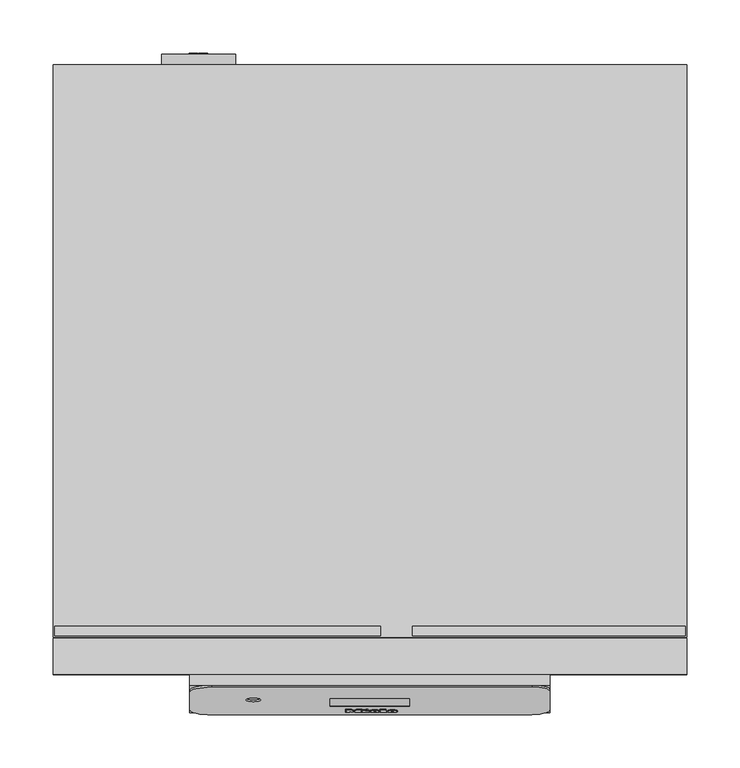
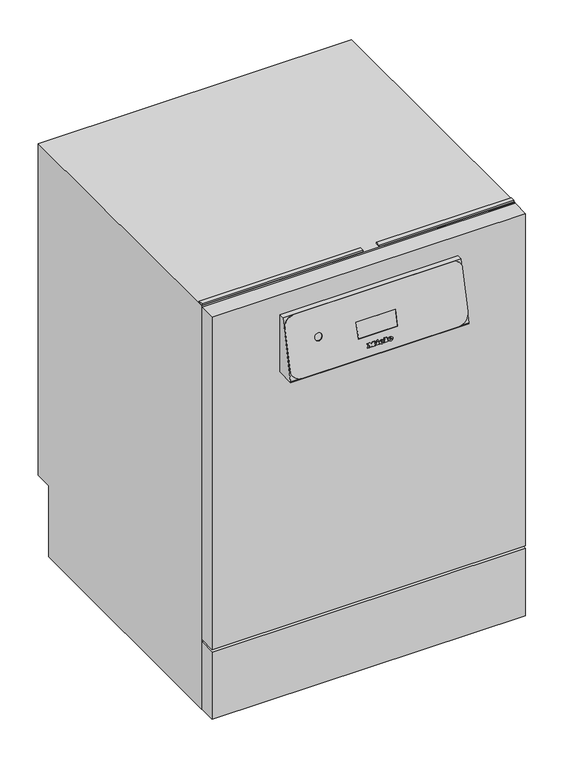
"""IFC4 building model written with IfcOpenShell, lengths in millimetres: proxy geometry, 12065670_NWE_PFD401UDOS_LW : 61040180_NWE_12065670_PFD401UDOS_LW."""

from ifc_helpers import new_model, si_unit, point, frame, frame_2d, origin, origin_with_axes, place, context, project, spatial, polyline, circle_curve, ellipse_curve, trimmed, segment, composite_curve, outline, extrude, source, transform, mapped, element, save
from ifc_brep_helpers import plane_surface, cylinder_surface, revolved_surface, extruded_surface, advanced_brep


def specialty_equipment_0366cfd7(model_context):
    return source(origin(), model_context, "Body", "SolidModel", [
        advanced_brep(
        [(20.656, -35.3033059, 679.7712566), (20.656, -35.1215455, 680.5585476), (26.008, -35.1215455, 680.5585476), (16.696, -35.1215455, 680.5585476), (18.896, -35.7298131, 677.9238509), (25.872, -35.3033059, 679.7712566), (23.456, -35.3033059, 679.7712566), (21.552, -35.5048621, 678.898221), (20.656, -34.8911956, 681.5563025), (20.656, -34.6950383, 682.4059532), (22.024, -34.6950383, 682.4059532), (22.024, -34.8911956, 681.5563025), (20.656, -34.3289359, 679.5463055), (21.552, -34.530492, 678.6732699), (23.456, -34.3289359, 679.5463055), (25.872, -34.3289359, 679.5463055), (18.896, -34.7554431, 677.6988999), (16.696, -34.1471754, 680.3335965), (26.008, -34.1471754, 680.3335965), (20.656, -34.1471754, 680.3335965), (20.656, -33.9168255, 681.3313515), (22.024, -33.9168255, 681.3313515), (22.024, -33.7206682, 682.1810022), (20.656, -33.7206682, 682.1810022)],
        [
            (0, 1),
            (1, 2),
            (2, 3, ellipse_curve(frame((21.352, -35.1215455, 680.5585476), z_axis=(0.0, -0.9743700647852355, 0.22495105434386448), x_axis=(-1.0, 0.0, 0.0)), 4.656, 3.848)),
            (3, 4, circle_curve(frame((19.7920436, -35.0603588, 680.8235762), z_axis=(0.0, -0.9743700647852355, 0.22495105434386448), x_axis=(0.0, -0.22495105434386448, -0.9743700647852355)), 3.1079688)),
            (4, 5, circle_curve(frame((21.2587936, -34.5852622, 682.8814458), z_axis=(0.0, -0.9743700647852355, 0.22495105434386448), x_axis=(0.0, -0.22495105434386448, -0.9743700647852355)), 5.6098607)),
            (5, 6),
            (6, 7, circle_curve(frame((21.9430588, -35.1359424, 680.4961879), z_axis=(0.0, 0.9743700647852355, -0.22495105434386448), x_axis=(0.0, -0.22495105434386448, -0.9743700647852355)), 1.6859795)),
            (7, 0, circle_curve(frame((21.552, -35.3033059, 679.7712566), z_axis=(0.0, 0.9743700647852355, -0.22495105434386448), x_axis=(0.0, -0.22495105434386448, -0.9743700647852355)), 0.896)),
            (8, 9),
            (9, 10, circle_curve(frame((21.34, -34.6950383, 682.4059532), z_axis=(0.0, 0.9743700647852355, -0.22495105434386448), x_axis=(0.0, -0.22495105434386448, -0.9743700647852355)), 0.684)),
            (10, 11),
            (11, 8),
            (12, 13, circle_curve(frame((21.552, -34.3289359, 679.5463055), z_axis=(0.0, -0.9743700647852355, 0.22495105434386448), x_axis=(0.0, -0.22495105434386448, -0.9743700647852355)), 0.896)),
            (13, 14, circle_curve(frame((21.9430588, -34.1615723, 680.2712369), z_axis=(0.0, -0.9743700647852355, 0.22495105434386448), x_axis=(0.0, -0.22495105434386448, -0.9743700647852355)), 1.6859795)),
            (14, 15),
            (15, 16, circle_curve(frame((21.2587936, -33.6108921, 682.6564948), z_axis=(0.0, 0.9743700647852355, -0.22495105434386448), x_axis=(0.0, -0.22495105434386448, -0.9743700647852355)), 5.6098607)),
            (16, 17, circle_curve(frame((19.7920436, -34.0859887, 680.5986252), z_axis=(0.0, 0.9743700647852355, -0.22495105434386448), x_axis=(0.0, -0.22495105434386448, -0.9743700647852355)), 3.1079688)),
            (17, 18, ellipse_curve(frame((21.352, -34.1471754, 680.3335965), z_axis=(0.0, 0.9743700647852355, -0.22495105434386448), x_axis=(-1.0, 0.0, 0.0)), 4.656, 3.848)),
            (18, 19),
            (19, 12),
            (20, 21),
            (21, 22),
            (22, 23, circle_curve(frame((21.34, -33.7206682, 682.1810022), z_axis=(0.0, -0.9743700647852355, 0.22495105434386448), x_axis=(0.0, -0.22495105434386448, -0.9743700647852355)), 0.684)),
            (23, 20),
            (0, 12),
            (19, 1),
            (18, 2),
            (5, 15),
            (14, 6),
            (17, 3),
            (13, 7),
            (16, 4),
            (8, 20),
            (23, 9),
            (22, 10),
            (21, 11),
        ],
        [
            plane_surface(frame((20.656, -35.1215455, 680.5585476), z_axis=(0.0, -0.9743700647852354, 0.22495105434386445), x_axis=(0.0, 0.22495105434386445, 0.9743700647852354))),
            plane_surface(frame((20.656, -34.1471754, 680.3335965), z_axis=(0.0, 0.9743700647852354, -0.22495105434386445), x_axis=(0.0, -0.22495105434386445, -0.9743700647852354))),
            plane_surface(frame((20.656, -35.3033059, 679.7712566), z_axis=(1.0, 0.0, 0.0), x_axis=(0.0, 0.9743700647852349, -0.22495105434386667))),
            plane_surface(frame((20.656, -35.1215455, 680.5585476), z_axis=(0.0, -0.22495105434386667, -0.9743700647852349), x_axis=(0.0, 0.9743700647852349, -0.22495105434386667))),
            plane_surface(frame((25.872, -35.3033059, 679.7712566), z_axis=(0.0, 0.22495105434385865, 0.9743700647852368), x_axis=(0.0, 0.9743700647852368, -0.22495105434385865))),
            extruded_surface(trimmed(ellipse_curve(frame((21.352, -33.1728054, 680.1086455), z_axis=(0.0, -0.9743700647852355, 0.22495105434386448), x_axis=(-1.0, 0.0, 0.0)), 4.656, 3.848), [point((26.008, -33.1728054, 680.1086455))], [point((16.696, -33.1728054, 680.1086455))], True, "CARTESIAN"), (0.0, -0.9743700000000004, 0.22495100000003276), 0.9999999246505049),
            revolved_surface(polyline([(21.9430588, -34.54083511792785, 678.6284689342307), (21.9430588, -35.51520525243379, 678.8534200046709)]), (21.9430588, -34.1615723, 680.2712369), (0.0, 0.9743700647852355, -0.22495105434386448)),
            revolved_surface(polyline([(21.552, -34.53049199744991, 678.6732699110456), (21.552, -35.504862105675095, 678.8982209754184)]), (21.552, -34.3289359, 679.5463055), (0.0, 0.9743700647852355, -0.22495105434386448)),
            cylinder_surface(frame((19.7920436, -34.0859887, 680.5986252), z_axis=(0.0, -0.9743700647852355, 0.22495105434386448), x_axis=(0.0, -0.22495105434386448, -0.9743700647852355)), 3.1079688),
            cylinder_surface(frame((21.2587936, -33.6108921, 682.6564948), z_axis=(0.0, -0.9743700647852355, 0.22495105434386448), x_axis=(0.0, -0.22495105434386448, -0.9743700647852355)), 5.6098607),
            plane_surface(frame((20.656, -34.8911956, 681.5563025), z_axis=(1.0, 0.0, 0.0), x_axis=(0.0, 0.9743700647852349, -0.22495105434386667))),
            revolved_surface(polyline([(21.34, -33.8745347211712, 681.5145330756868), (21.34, -34.84890480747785, 681.7394841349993)]), (21.34, -33.7206682, 682.1810022), (0.0, 0.9743700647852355, -0.22495105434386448)),
            plane_surface(frame((22.024, -34.6950383, 682.4059532), z_axis=(-1.0, 0.0, 0.0), x_axis=(0.0, 0.9743700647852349, -0.22495105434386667))),
            plane_surface(frame((22.024, -34.8911956, 681.5563025), z_axis=(0.0, 0.22495105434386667, 0.9743700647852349), x_axis=(0.0, 0.9743700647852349, -0.22495105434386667))),
        ],
        [
            (0, [[1, 2, 3, 4, 5, 6, 7, 8], [9, 10, 11, 12]]),
            (1, [[13, 14, 15, 16, 17, 18, 19, 20], [21, 22, 23, 24]]),
            (2, [[-1, 25, -20, 26]]),
            (3, [[-2, -26, -19, 27]]),
            (4, [[-6, 28, -15, 29]]),
            (5, [[-3, -27, -18, 30]]),
            (6, [[-7, -29, -14, 31]]),
            (7, [[-8, -31, -13, -25]]),
            (8, [[-4, -30, -17, 32]]),
            (9, [[-5, -32, -16, -28]]),
            (10, [[-9, 33, -24, 34]]),
            (11, [[-10, -34, -23, 35]]),
            (12, [[-11, -35, -22, 36]]),
            (13, [[-12, -36, -21, -33]]),
        ],
    ),
        advanced_brep(
        [(3.96, -35.3033059, 679.7712566), (3.96, -35.1215455, 680.5585476), (9.312, -35.1215455, 680.5585476), (0.0, -35.1215455, 680.5585476), (2.2, -35.7298131, 677.9238509), (9.176, -35.3033059, 679.7712566), (6.76, -35.3033059, 679.7712566), (4.856, -35.5048621, 678.898221), (3.96, -34.8911956, 681.5563025), (3.96, -34.6950383, 682.4059532), (5.328, -34.6950383, 682.4059532), (5.328, -34.8911956, 681.5563025), (3.96, -34.3289359, 679.5463055), (4.856, -34.530492, 678.6732699), (6.76, -34.3289359, 679.5463055), (9.176, -34.3289359, 679.5463055), (2.2, -34.7554431, 677.6988999), (0.0, -34.1471754, 680.3335965), (9.312, -34.1471754, 680.3335965), (3.96, -34.1471754, 680.3335965), (3.96, -33.9168255, 681.3313515), (5.328, -33.9168255, 681.3313515), (5.328, -33.7206682, 682.1810022), (3.96, -33.7206682, 682.1810022)],
        [
            (0, 1),
            (1, 2),
            (2, 3, ellipse_curve(frame((4.656, -35.1215455, 680.5585476), z_axis=(0.0, -0.9743700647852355, 0.22495105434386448), x_axis=(-1.0, 0.0, 0.0)), 4.656, 3.848)),
            (3, 4, circle_curve(frame((3.0960436, -35.0603588, 680.8235762), z_axis=(0.0, -0.9743700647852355, 0.22495105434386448), x_axis=(0.0, -0.22495105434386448, -0.9743700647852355)), 3.1079688)),
            (4, 5, circle_curve(frame((4.5627936, -34.5852622, 682.8814458), z_axis=(0.0, -0.9743700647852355, 0.22495105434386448), x_axis=(0.0, -0.22495105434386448, -0.9743700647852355)), 5.6098607)),
            (5, 6),
            (6, 7, circle_curve(frame((5.2470588, -35.1359424, 680.4961879), z_axis=(0.0, 0.9743700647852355, -0.22495105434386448), x_axis=(0.0, -0.22495105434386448, -0.9743700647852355)), 1.6859795)),
            (7, 0, circle_curve(frame((4.856, -35.3033059, 679.7712566), z_axis=(0.0, 0.9743700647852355, -0.22495105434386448), x_axis=(0.0, -0.22495105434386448, -0.9743700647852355)), 0.896)),
            (8, 9),
            (9, 10, circle_curve(frame((4.644, -34.6950383, 682.4059532), z_axis=(0.0, 0.9743700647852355, -0.22495105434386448), x_axis=(0.0, -0.22495105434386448, -0.9743700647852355)), 0.684)),
            (10, 11),
            (11, 8),
            (12, 13, circle_curve(frame((4.856, -34.3289359, 679.5463055), z_axis=(0.0, -0.9743700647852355, 0.22495105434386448), x_axis=(0.0, -0.22495105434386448, -0.9743700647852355)), 0.896)),
            (13, 14, circle_curve(frame((5.2470588, -34.1615723, 680.2712369), z_axis=(0.0, -0.9743700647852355, 0.22495105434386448), x_axis=(0.0, -0.22495105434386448, -0.9743700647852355)), 1.6859795)),
            (14, 15),
            (15, 16, circle_curve(frame((4.5627936, -33.6108921, 682.6564948), z_axis=(0.0, 0.9743700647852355, -0.22495105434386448), x_axis=(0.0, -0.22495105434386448, -0.9743700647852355)), 5.6098607)),
            (16, 17, circle_curve(frame((3.0960436, -34.0859887, 680.5986252), z_axis=(0.0, 0.9743700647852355, -0.22495105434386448), x_axis=(0.0, -0.22495105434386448, -0.9743700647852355)), 3.1079688)),
            (17, 18, ellipse_curve(frame((4.656, -34.1471754, 680.3335965), z_axis=(0.0, 0.9743700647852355, -0.22495105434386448), x_axis=(-1.0, 0.0, 0.0)), 4.656, 3.848)),
            (18, 19),
            (19, 12),
            (20, 21),
            (21, 22),
            (22, 23, circle_curve(frame((4.644, -33.7206682, 682.1810022), z_axis=(0.0, -0.9743700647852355, 0.22495105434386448), x_axis=(0.0, -0.22495105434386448, -0.9743700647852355)), 0.684)),
            (23, 20),
            (0, 12),
            (19, 1),
            (18, 2),
            (5, 15),
            (14, 6),
            (17, 3),
            (13, 7),
            (16, 4),
            (8, 20),
            (23, 9),
            (22, 10),
            (21, 11),
        ],
        [
            plane_surface(frame((3.96, -35.1215455, 680.5585476), z_axis=(0.0, -0.9743700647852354, 0.22495105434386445), x_axis=(0.0, 0.22495105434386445, 0.9743700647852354))),
            plane_surface(frame((3.96, -34.1471754, 680.3335965), z_axis=(0.0, 0.9743700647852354, -0.22495105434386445), x_axis=(0.0, -0.22495105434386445, -0.9743700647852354))),
            plane_surface(frame((3.96, -35.3033059, 679.7712566), z_axis=(1.0000000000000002, 0.0, 0.0), x_axis=(0.0, 0.9743700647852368, -0.22495105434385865))),
            plane_surface(frame((3.96, -35.1215455, 680.5585476), z_axis=(0.0, -0.22495105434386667, -0.9743700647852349), x_axis=(0.0, 0.9743700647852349, -0.22495105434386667))),
            plane_surface(frame((9.176, -35.3033059, 679.7712566), z_axis=(0.0, 0.22495105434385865, 0.9743700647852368), x_axis=(0.0, 0.9743700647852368, -0.22495105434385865))),
            extruded_surface(trimmed(ellipse_curve(frame((4.656, -33.1728054, 680.1086455), z_axis=(0.0, -0.9743700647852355, 0.22495105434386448), x_axis=(-1.0, 0.0, 0.0)), 4.656, 3.848), [point((9.312, -33.1728054, 680.1086455))], [point((0.0, -33.1728054, 680.1086455))], True, "CARTESIAN"), (0.0, -0.9743700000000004, 0.22495100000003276), 0.9999999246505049),
            revolved_surface(polyline([(5.2470588, -34.54083511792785, 678.6284689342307), (5.2470588, -35.51520525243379, 678.8534200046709)]), (5.2470588, -34.1615723, 680.2712369), (0.0, 0.9743700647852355, -0.22495105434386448)),
            revolved_surface(polyline([(4.856, -34.53049199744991, 678.6732699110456), (4.856, -35.504862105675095, 678.8982209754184)]), (4.856, -34.3289359, 679.5463055), (0.0, 0.9743700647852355, -0.22495105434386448)),
            cylinder_surface(frame((3.0960436, -34.0859887, 680.5986252), z_axis=(0.0, -0.9743700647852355, 0.22495105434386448), x_axis=(0.0, -0.22495105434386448, -0.9743700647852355)), 3.1079688),
            cylinder_surface(frame((4.5627936, -33.6108921, 682.6564948), z_axis=(0.0, -0.9743700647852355, 0.22495105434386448), x_axis=(0.0, -0.22495105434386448, -0.9743700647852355)), 5.6098607),
            plane_surface(frame((3.96, -34.8911956, 681.5563025), z_axis=(1.0, 0.0, 0.0), x_axis=(0.0, 0.9743700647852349, -0.22495105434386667))),
            revolved_surface(polyline([(4.644, -33.8745347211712, 681.5145330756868), (4.644, -34.84890480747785, 681.7394841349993)]), (4.644, -33.7206682, 682.1810022), (0.0, 0.9743700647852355, -0.22495105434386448)),
            plane_surface(frame((5.328, -34.6950383, 682.4059532), z_axis=(-1.0, 0.0, 0.0), x_axis=(0.0, 0.9743700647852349, -0.22495105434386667))),
            plane_surface(frame((5.328, -34.8911956, 681.5563025), z_axis=(0.0, 0.22495105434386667, 0.9743700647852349), x_axis=(0.0, 0.9743700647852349, -0.22495105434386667))),
        ],
        [
            (0, [[1, 2, 3, 4, 5, 6, 7, 8], [9, 10, 11, 12]]),
            (1, [[13, 14, 15, 16, 17, 18, 19, 20], [21, 22, 23, 24]]),
            (2, [[-1, 25, -20, 26]]),
            (3, [[-2, -26, -19, 27]]),
            (4, [[-6, 28, -15, 29]]),
            (5, [[-3, -27, -18, 30]]),
            (6, [[-7, -29, -14, 31]]),
            (7, [[-8, -31, -13, -25]]),
            (8, [[-4, -30, -17, 32]]),
            (9, [[-5, -32, -16, -28]]),
            (10, [[-9, 33, -24, 34]]),
            (11, [[-10, -34, -23, 35]]),
            (12, [[-11, -35, -22, 36]]),
            (13, [[-12, -36, -21, -33]]),
        ],
    ),
        extrude(outline(polyline([(0.0, 0.0), (-0.0109086, -2.9993294), (-1.4390415, -2.9920868), (-1.4315307, 0.0), (0.0, 0.0)])), frame((-4.784, -33.0620115, 685.0339577), z_axis=(0.0, -0.9743700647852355, 0.22495105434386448), x_axis=(-0.4247202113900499, 0.20365373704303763, 0.8821212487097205)), (0.0, 0.0, 1.0), 1.0),
        extrude(outline(polyline([(-0.4933907, 2.4141097), (-2.7800844, -2.4601583), (-7.0459742, -0.4588766), (-7.4401146, -1.2990179), (-8.6568709, -0.728194), (-5.9760369, 4.9862153), (-4.7592806, 4.4153913), (-5.1636142, 3.5535223), (-2.1941493, 2.1604399), (-1.7898156, 3.022309), (-0.4933907, 2.4141097)])), frame((-4.784, -33.0620115, 685.0339577), z_axis=(0.0, -0.9743700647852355, 0.22495105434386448), x_axis=(-0.4247202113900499, 0.20365373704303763, 0.8821212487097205)), (0.0, 0.0, 1.0), 1.0),
        extrude(outline(polyline([(0.0, 0.0), (0.0, -1.304), (-5.504, -1.304), (-5.504, 5.352), (-6.488, 5.352), (-6.488, 6.696), (0.0, 6.696), (0.0, 5.352), (-0.96, 5.352), (-0.96, 0.0), (0.0, 0.0)])), frame((9.76, -33.2491708, 684.2232818), z_axis=(0.0, -0.9743700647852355, 0.22495105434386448), x_axis=(-1.0, 0.0, 0.0)), (0.0, 0.0, 1.0), 1.0),
        extrude(outline(polyline([(0.0, 0.0), (0.0, -1.304), (-5.576, -1.304), (-7.92, 1.696), (-10.256, -1.304), (-15.128, -1.304), (-15.128, 0.0), (-14.112, 0.0), (-14.112, 5.352), (-15.128, 5.352), (-15.128, 6.696), (-8.744, 6.696), (-8.744, 5.352), (-9.728, 5.352), (-9.728, 1.8807777), (-6.136, 6.696), (-2.56, 1.9488753), (-2.56, 5.352), (-3.52, 5.352), (-3.52, 6.696), (0.0, 6.696), (0.0, 5.352), (-0.968, 5.352), (-0.968, 0.0), (0.0, 0.0)])), frame((-22.704, -33.2491708, 684.2232818), z_axis=(0.0, -0.9743700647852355, 0.22495105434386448), x_axis=(-1.0, 0.0, 0.0)), (0.0, 0.0, 1.0), 1.0),
        extrude(outline(polyline([(-0.1038681, 775.5857792), (-0.1038681, 660.0), (-36.1981904, 660.0), (-36.1981904, 662.5588517), (-10.1038681, 775.5857792), (-0.1038681, 775.5857792)])), frame((-169.8831565, 0.0, 0.0), z_axis=(1.0, 0.0, 0.0), x_axis=(0.0, 1.0, 0.0)), (0.0, 0.0, 1.0), 339.766313),
        extrude(outline(polyline([(299.0, 34.0), (299.0, 0.0), (-299.0, 0.0), (-299.0, 34.0), (299.0, 34.0)])), frame((0.0, 0.0, 4.5), z_axis=(0.0, 0.0, 1.0), x_axis=(1.0, 0.0, 0.0)), (0.0, 0.0, 1.0), 135.5),
        extrude(outline(polyline([(299.0, 34.0), (299.0, 0.0), (-299.0, 0.0), (-299.0, 34.0), (299.0, 34.0)])), frame((0.0, 0.0, 145.0), z_axis=(0.0, 0.0, 1.0), x_axis=(1.0, 0.0, 0.0)), (0.0, 0.0, 1.0), 670.0),
        advanced_brep(
        [(153.3281651, -12.0526082, 776.0356813), (-148.8831565, -12.0526082, 776.0356813), (-169.8831565, -16.7765804, 755.57391), (-169.8831565, -33.4229584, 683.4705252), (-148.8831565, -38.1469305, 663.0087538), (148.8831565, -38.1469305, 663.0087538), (169.8831565, -33.4229584, 683.4705252), (169.8831565, -15.776671, 759.9049933), (-102.8831565, -24.0088923, 724.2473253), (-116.8831565, -24.0088923, 724.2473253), (37.5, -23.1425191, 728.0), (37.5, -30.0685648, 698.0), (-37.5, -30.0685648, 698.0), (-37.5, -23.1425191, 728.0), (148.8831565, -36.1981904, 662.5588517), (169.8831565, -31.4742182, 683.0206231), (169.8831565, -13.8279308, 759.4550912), (153.3281651, -10.1038681, 775.5857792), (-148.8831565, -36.1981904, 662.5588517), (-169.8831565, -31.4742182, 683.0206231), (-169.8831565, -14.8278402, 755.1240079), (-148.8831565, -10.1038681, 775.5857792), (37.5, -28.0159566, 698.0), (37.5, -21.0899109, 728.0), (-37.5, -21.0899109, 728.0), (-37.5, -28.0159566, 698.0), (-116.8831565, -22.4281396, 723.8823798), (-102.8831565, -22.4281396, 723.8823798)],
        [
            (0, 1),
            (1, 2, circle_curve(frame((-148.8831565, -16.7765804, 755.57391), z_axis=(0.0, -0.9743700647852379, 0.22495105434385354), x_axis=(1.0, 0.0, 0.0)), 21.0)),
            (2, 3),
            (3, 4, circle_curve(frame((-148.8831565, -33.4229584, 683.4705252), z_axis=(0.0, -0.9743700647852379, 0.22495105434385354), x_axis=(1.0, 0.0, 0.0)), 21.0)),
            (4, 5),
            (5, 6, circle_curve(frame((148.8831565, -33.4229584, 683.4705252), z_axis=(0.0, -0.9743700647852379, 0.22495105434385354), x_axis=(1.0, 0.0, 0.0)), 21.0)),
            (6, 7),
            (7, 0, circle_curve(frame((153.3281651, -15.776671, 759.9049933), z_axis=(0.0, -0.9743700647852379, 0.22495105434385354), x_axis=(1.0, 0.0, 0.0)), 16.5549913)),
            (8, 9, circle_curve(frame((-109.8831565, -24.0088923, 724.2473253), z_axis=(0.0, 0.9743700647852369, -0.22495105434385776), x_axis=(1.0, 0.0, 0.0)), 7.0)),
            (9, 8, circle_curve(frame((-109.8831565, -24.0088923, 724.2473253), z_axis=(0.0, 0.9743700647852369, -0.22495105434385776), x_axis=(1.0, 0.0, 0.0)), 7.0)),
            (10, 11),
            (11, 12),
            (12, 13),
            (13, 10),
            (5, 14),
            (14, 15, circle_curve(frame((148.8831565, -31.4742182, 683.0206231), z_axis=(0.0, -0.9743700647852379, 0.22495105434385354), x_axis=(1.0, 0.0, 0.0)), 21.0)),
            (15, 6),
            (15, 16),
            (16, 7),
            (16, 17, circle_curve(frame((153.3281651, -13.8279308, 759.4550912), z_axis=(0.0, -0.9743700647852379, 0.22495105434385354), x_axis=(1.0, 0.0, 0.0)), 16.5549913)),
            (17, 0),
            (14, 18),
            (18, 19, circle_curve(frame((-148.8831565, -31.4742182, 683.0206231), z_axis=(0.0, 0.9743700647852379, -0.22495105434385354), x_axis=(1.0, 0.0, 0.0)), 21.0)),
            (19, 20),
            (20, 21, circle_curve(frame((-148.8831565, -14.8278402, 755.1240079), z_axis=(0.0, 0.9743700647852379, -0.22495105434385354), x_axis=(1.0, 0.0, 0.0)), 21.0)),
            (21, 17),
            (22, 23),
            (23, 24),
            (24, 25),
            (25, 22),
            (21, 1),
            (20, 2),
            (19, 3),
            (18, 4),
            (26, 27, circle_curve(frame((-109.8831565, -22.4281396, 723.8823798), z_axis=(0.0, -0.9743700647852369, 0.22495105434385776), x_axis=(1.0, 0.0, 0.0)), 7.0)),
            (27, 26, circle_curve(frame((-109.8831565, -22.4281396, 723.8823798), z_axis=(0.0, -0.9743700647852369, 0.22495105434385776), x_axis=(1.0, 0.0, 0.0)), 7.0)),
            (26, 9),
            (8, 27),
            (11, 22),
            (25, 12),
            (23, 10),
            (13, 24),
        ],
        [
            plane_surface(frame((-166.8819453, -12.0526082, 776.0356813), z_axis=(0.0, -0.9743700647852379, 0.22495105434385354), x_axis=(-1.0, 0.0, 0.0))),
            cylinder_surface(frame((148.8831565, -31.4742182, 683.0206231), z_axis=(0.0, -0.9743700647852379, 0.22495105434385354), x_axis=(1.0, 0.0, 0.0)), 21.0),
            plane_surface(frame((169.8831565, -33.4229584, 683.4705252), z_axis=(1.0000000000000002, 0.0, 0.0), x_axis=(0.0, 0.9743700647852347, -0.22495105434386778))),
            cylinder_surface(frame((153.3281651, -13.8279308, 759.4550912), z_axis=(0.0, -0.9743700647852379, 0.22495105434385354), x_axis=(1.0, 0.0, 0.0)), 16.5549913),
            plane_surface(frame((-166.8819453, -10.1038681, 775.5857792), z_axis=(0.0, 0.9743700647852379, -0.22495105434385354), x_axis=(1.0, 0.0, 0.0))),
            plane_surface(frame((153.3281651, -12.0526082, 776.0356813), z_axis=(0.0, 0.22495105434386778, 0.9743700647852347), x_axis=(0.0, 0.9743700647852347, -0.22495105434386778))),
            cylinder_surface(frame((-148.8831565, -14.8278402, 755.1240079), z_axis=(0.0, -0.9743700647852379, 0.22495105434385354), x_axis=(1.0, 0.0, 0.0)), 21.0),
            plane_surface(frame((-169.8831565, -16.7765804, 755.57391), z_axis=(-1.0, 0.0, 0.0), x_axis=(0.0, 0.9743700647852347, -0.22495105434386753))),
            cylinder_surface(frame((-148.8831565, -31.4742182, 683.0206231), z_axis=(0.0, -0.9743700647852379, 0.22495105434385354), x_axis=(1.0, 0.0, 0.0)), 21.0),
            plane_surface(frame((-148.8831565, -38.1469305, 663.0087538), z_axis=(0.0, -0.22495105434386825, -0.9743700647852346), x_axis=(0.0, 0.9743700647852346, -0.22495105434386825))),
            plane_surface(frame((-102.8831565, -22.4281396, 723.8823798), z_axis=(0.0, -0.9743700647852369, 0.2249510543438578), x_axis=(0.0, -0.2249510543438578, -0.9743700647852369))),
            revolved_surface(polyline([(-102.8831565, -24.008892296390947, 724.2473253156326), (-102.8831565, -22.4281396, 723.8823798)]), (-109.8831565, -22.4281396, 723.8823798), (0.0, -0.9743700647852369, 0.22495105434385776)),
            plane_surface(frame((37.5, -30.0685648, 698.0), z_axis=(0.0, 0.0, 1.0), x_axis=(-1.0, 0.0, 0.0))),
            plane_surface(frame((37.5, -21.0899109, 728.0), z_axis=(0.0, 0.0, -1.0), x_axis=(-1.0, 0.0, 0.0))),
            plane_surface(frame((37.5, -23.1425191, 728.0), z_axis=(-1.0000000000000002, 0.0, 0.0), x_axis=(0.0, -0.22495105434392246, -0.974370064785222))),
            plane_surface(frame((-37.5, -23.1425191, 728.0), z_axis=(1.0000000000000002, 0.0, 0.0), x_axis=(0.0, 0.22495105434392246, 0.974370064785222))),
        ],
        [
            (0, [[1, 2, 3, 4, 5, 6, 7, 8], [9, 10], [11, 12, 13, 14]]),
            (1, [[-6, 15, 16, 17]]),
            (2, [[-7, -17, 18, 19]]),
            (3, [[-8, -19, 20, 21]]),
            (4, [[-20, -18, -16, 22, 23, 24, 25, 26], [27, 28, 29, 30]]),
            (5, [[-1, -21, -26, 31]]),
            (6, [[-2, -31, -25, 32]]),
            (7, [[-3, -32, -24, 33]]),
            (8, [[-4, -33, -23, 34]]),
            (9, [[-5, -34, -22, -15]]),
            (10, [[35, 36]]),
            (11, [[-35, 37, -9, 38]]),
            (11, [[-36, -38, -10, -37]]),
            (12, [[39, -30, 40, -12]]),
            (13, [[41, -14, 42, -28]]),
            (14, [[-41, -27, -39, -11]]),
            (15, [[-40, -29, -42, -13]]),
        ],
    ),
        extrude(outline(polyline([(-23.1425191, 728.0), (-21.0899109, 728.0), (-28.0159566, 698.0), (-30.0685648, 698.0), (-23.1425191, 728.0)])), frame((-37.5, 0.0, 0.0), z_axis=(1.0, 0.0, 0.0), x_axis=(0.0, 1.0, 0.0)), (0.0, 0.0, 1.0), 75.0),
        extrude(outline(polyline([(297.9027562, 45.259625), (297.9027562, 36.259625), (40.425123, 36.259625), (40.425123, 45.259625), (297.9027562, 45.259625)])), frame((0.0, 0.0, 817.0), z_axis=(0.0, 0.0, 1.0), x_axis=(1.0, 0.0, 0.0)), (0.0, 0.0, 1.0), 3.0),
        extrude(outline(polyline([(10.1158911, 45.259625), (10.1158911, 36.259625), (-297.5390632, 36.259625), (-297.5390632, 45.259625), (10.1158911, 45.259625)])), frame((0.0, 0.0, 817.0), z_axis=(0.0, 0.0, 1.0), x_axis=(1.0, 0.0, 0.0)), (0.0, 0.0, 1.0), 3.0),
        extrude(outline(polyline([(35.0, 817.0), (575.0, 817.0), (575.0, 148.0), (541.0, 148.0), (541.0, 4.2000122), (35.0, 4.2000122), (35.0, 817.0)])), frame((-299.0, 0.0, 0.0), z_axis=(1.0, 0.0, 0.0), x_axis=(0.0, 1.0, 0.0)), (0.0, 0.0, 1.0), 598.0),
        extrude(outline(polyline([(-172.0947306, 541.0), (-252.9150967, 541.0), (-252.9150967, 546.8796322), (-172.0947306, 546.8796322), (-172.0947306, 541.0)])), frame((0.0, 0.0, 83.2113443), z_axis=(0.0, 0.0, 1.0), x_axis=(1.0, 0.0, 0.0)), (0.0, 0.0, 1.0), 9.5402229),
        extrude(outline(polyline([(-172.0947306, 541.0), (-252.9150967, 541.0), (-252.9150967, 546.8796322), (-172.0947306, 546.8796322), (-172.0947306, 541.0)])), frame((0.0, 0.0, 67.2113431), z_axis=(0.0, 0.0, 1.0), x_axis=(1.0, 0.0, 0.0)), (0.0, 0.0, 1.0), 9.5826234),
        extrude(outline(polyline([(-172.0947306, 541.0), (-252.9150967, 541.0), (-252.9150967, 546.8796322), (-172.0947306, 546.8796322), (-172.0947306, 541.0)])), frame((0.0, 0.0, 49.1113767), z_axis=(0.0, 0.0, 1.0), x_axis=(1.0, 0.0, 0.0)), (0.0, 0.0, 1.0), 11.5700235),
        extrude(outline(polyline([(70.6242327, 186.565003), (80.6698637, 186.565003), (80.6698637, 179.3447057), (79.4141598, 179.3447057), (79.4141598, 185.3092991), (76.4318631, 185.3092991), (76.4318631, 179.6586317), (75.1761592, 179.6586317), (75.1761592, 185.3092991), (71.8799366, 185.3092991), (71.8799366, 179.1877427), (70.6242327, 179.1877427), (70.6242327, 186.565003)])), frame((0.0, 571.0, 0.0), z_axis=(0.0, 1.0, 0.0), x_axis=(0.0, 0.0, 1.0)), (0.0, 0.0, 1.0), 1.0),
        extrude(outline(polyline([(70.6242327, 177.3041869), (80.6698637, 177.3041869), (80.6698637, 176.048483), (71.8799366, 176.048483), (71.8799366, 171.0256675), (70.6242327, 171.0256675), (70.6242327, 177.3041869)])), frame((0.0, 571.0, 0.0), z_axis=(0.0, 1.0, 0.0), x_axis=(0.0, 0.0, 1.0)), (0.0, 0.0, 1.0), 1.0),
        extrude(outline(polyline([(46.0, 96.7862239), (56.045631, 92.7763102), (56.045631, 91.7069998), (46.0, 87.6970861), (46.0, 89.0239138), (49.1392597, 90.1741582), (49.1392597, 94.3116044), (46.0, 95.4593962), (46.0, 96.7862239)]), holes=[polyline([(50.3949636, 93.8505256), (50.3949636, 90.6327844), (52.864678, 91.5377741), (54.7899271, 92.241655), (53.0805021, 92.8670544), (50.3949636, 93.8505256)])]), frame((0.0, 571.0, 0.0), z_axis=(0.0, 1.0, 0.0), x_axis=(0.0, 0.0, 1.0)), (0.0, 0.0, 1.0), 1.0),
        extrude(outline(polyline([(46.0, 84.5578264), (56.045631, 87.297321), (56.045631, 86.0023764), (49.4433755, 84.4131261), (47.4053092, 83.9226168), (49.207931, 83.3977718), (56.045631, 81.406304), (56.045631, 79.539916), (51.0890343, 78.0929135), (47.4053092, 77.0162455), (49.3845144, 76.5404514), (56.045631, 74.936486), (56.045631, 73.6415413), (46.0, 76.3834885), (46.0, 77.7250315), (53.7500474, 80.1334323), (54.8316204, 80.4694312), (53.5293182, 80.8471233), (46.0, 83.0421526), (46.0, 84.5578264)])), frame((0.0, 571.0, 0.0), z_axis=(0.0, 1.0, 0.0), x_axis=(0.0, 0.0, 1.0)), (0.0, 0.0, 1.0), 1.0),
        extrude(outline(composite_curve([segment(trimmed(circle_curve(frame_2d((51.0, 85.0998392)), 8.0), [point((51.0, 77.0998392))], [point((51.0, 93.0998392))], False, "CARTESIAN"), True, "CONTINUOUS"), segment(trimmed(circle_curve(frame_2d((51.0, 85.0998392)), 8.0), [point((51.0, 93.0998392))], [point((51.0, 77.0998392))], False, "CARTESIAN"), True, "CONTINUOUS")], self_intersect=False)), frame((0.0, 541.0, 0.0), z_axis=(0.0, 1.0, 0.0), x_axis=(0.0, 0.0, 1.0)), (0.0, 0.0, 1.0), 30.0),
        extrude(outline(polyline([(94.6239875, 133.557834), (104.6696185, 136.2973286), (104.6696185, 135.002384), (98.067363, 133.4131338), (96.0292967, 132.9226244), (97.8319185, 132.3977795), (104.6696185, 130.4063116), (104.6696185, 128.5399236), (99.7130218, 127.0929211), (96.0292967, 126.0162531), (98.0085019, 125.5404591), (104.6696185, 123.9364936), (104.6696185, 122.641549), (94.6239875, 125.3834961), (94.6239875, 126.7250391), (102.3740349, 129.1334399), (103.4556079, 129.4694388), (102.1533057, 129.847131), (94.6239875, 132.0421602), (94.6239875, 133.557834)])), frame((0.0, 571.0, 0.0), z_axis=(0.0, 1.0, 0.0), x_axis=(0.0, 0.0, 1.0)), (0.0, 0.0, 1.0), 1.0),
        extrude(outline(polyline([(94.6239875, 144.6163668), (104.6696185, 144.6163668), (104.6696185, 143.3606629), (99.7522625, 143.3606629), (104.6696185, 138.210315), (104.6696185, 136.4542916), (100.53953, 140.7781313), (94.6239875, 136.2973286), (94.6239875, 137.8326228), (99.6909489, 141.6684057), (98.0771732, 143.3606629), (94.6239875, 143.3606629), (94.6239875, 144.6163668)])), frame((0.0, 571.0, 0.0), z_axis=(0.0, 1.0, 0.0), x_axis=(0.0, 0.0, 1.0)), (0.0, 0.0, 1.0), 1.0),
        extrude(outline(polyline([(118.1398187, 18.2077062), (128.1854497, 18.2077062), (128.1854497, 14.7422578), (128.0407495, 12.9494462), (127.3221533, 11.4730132), (125.6053707, 10.283528), (123.2165903, 9.888668), (121.1895605, 10.1559956), (119.7266164, 10.8427087), (118.8154953, 11.7599611), (118.311497, 12.9604827), (118.1398187, 14.5754846), (118.1398187, 18.2077062)]), holes=[polyline([(119.3955226, 16.9520023), (119.3955226, 14.7299951), (119.5770111, 13.1137669), (120.0895933, 12.1817991), (121.3367133, 11.4178309), (123.2362106, 11.1443719), (125.6151809, 11.6802533), (126.728637, 12.9837819), (126.9297459, 14.7643307), (126.9297459, 16.9520023), (119.3955226, 16.9520023)])]), frame((0.0, 571.0, 0.0), z_axis=(0.0, 1.0, 0.0), x_axis=(0.0, 0.0, 1.0)), (0.0, 0.0, 1.0), 1.0),
        extrude(outline(polyline([(121.5930044, 8.6329642), (121.5930044, 7.3772603), (120.3360742, 6.9725901), (119.5414491, 5.9842138), (119.2385596, 4.4783502), (119.4678727, 3.1662377), (120.0981772, 2.3188828), (120.940627, 2.0405188), (121.7242156, 2.2489853), (122.2944327, 3.1024715), (122.7739056, 4.930845), (123.3931736, 6.8990137), (124.3275939, 7.9670977), (125.5759401, 8.3190382), (126.9971909, 7.8837112), (128.0002825, 6.6120657), (128.3424127, 4.7505828), (127.9843409, 2.7640201), (126.9321984, 1.4396449), (125.360116, 0.9417779), (125.360116, 2.1974818), (126.6501555, 2.9087203), (127.0867088, 4.7015319), (126.6550606, 6.4992486), (125.6127283, 7.0633343), (124.7420743, 6.6635692), (124.0406459, 4.6132402), (123.4103414, 2.391233), (122.3925346, 1.1759961), (120.9725101, 0.7848149), (119.4703253, 1.2348572), (118.3740369, 2.5298019), (117.9828557, 4.4292992), (118.4046938, 6.6721531), (119.6751129, 8.0909513), (121.5930044, 8.6329642)])), frame((0.0, 571.0, 0.0), z_axis=(0.0, 1.0, 0.0), x_axis=(0.0, 0.0, 1.0)), (0.0, 0.0, 1.0), 1.0),
        extrude(outline(composite_curve([segment(trimmed(circle_curve(frame_2d((126.8499756, 10.1811127)), 2.9851521), [point((126.8499756, 7.1959606))], [point((126.8499756, 13.1662647))], False, "CARTESIAN"), True, "CONTINUOUS"), segment(trimmed(circle_curve(frame_2d((126.8499756, 10.1811127)), 2.9851521), [point((126.8499756, 13.1662647))], [point((126.8499756, 7.1959606))], False, "CARTESIAN"), True, "CONTINUOUS")], self_intersect=False)), frame((0.0, 541.0, 0.0), z_axis=(0.0, 1.0, 0.0), x_axis=(0.0, 0.0, 1.0)), (0.0, 0.0, 1.0), 30.0),
        extrude(outline(composite_curve([segment(trimmed(circle_curve(frame_2d((117.0999756, 10.1811127)), 3.0), [point((117.0999756, 7.1811127))], [point((117.0999756, 13.1811127))], False, "CARTESIAN"), True, "CONTINUOUS"), segment(trimmed(circle_curve(frame_2d((117.0999756, 10.1811127)), 3.0), [point((117.0999756, 13.1811127))], [point((117.0999756, 7.1811127))], False, "CARTESIAN"), True, "CONTINUOUS")], self_intersect=False)), frame((0.0, 541.0, 0.0), z_axis=(0.0, 1.0, 0.0), x_axis=(0.0, 0.0, 1.0)), (0.0, 0.0, 1.0), 30.0),
        extrude(outline(composite_curve([segment(trimmed(circle_curve(frame_2d((107.3499443, 10.1811127)), 3.0), [point((107.3499443, 7.1811127))], [point((107.3499443, 13.1811127))], False, "CARTESIAN"), True, "CONTINUOUS"), segment(trimmed(circle_curve(frame_2d((107.3499443, 10.1811127)), 3.0), [point((107.3499443, 13.1811127))], [point((107.3499443, 7.1811127))], False, "CARTESIAN"), True, "CONTINUOUS")], self_intersect=False)), frame((0.0, 541.0, 0.0), z_axis=(0.0, 1.0, 0.0), x_axis=(0.0, 0.0, 1.0)), (0.0, 0.0, 1.0), 30.0),
        extrude(outline(composite_curve([segment(trimmed(circle_curve(frame_2d((136.5999756, 10.1811127)), 3.0), [point((136.5999756, 7.1811127))], [point((136.5999756, 13.1811127))], False, "CARTESIAN"), True, "CONTINUOUS"), segment(trimmed(circle_curve(frame_2d((136.5999756, 10.1811127)), 3.0), [point((136.5999756, 13.1811127))], [point((136.5999756, 7.1811127))], False, "CARTESIAN"), True, "CONTINUOUS")], self_intersect=False)), frame((0.0, 541.0, 0.0), z_axis=(0.0, 1.0, 0.0), x_axis=(0.0, 0.0, 1.0)), (0.0, 0.0, 1.0), 30.0),
        extrude(outline(polyline([(99.6239875, 19.6811122), (148.0, 19.6811122), (148.0, 1.1811127), (99.6239875, 1.1811127), (99.6239875, 19.6811122)]), holes=[polyline([(100.6239875, 18.6811122), (100.6239875, 2.1811127), (147.0, 2.1811127), (147.0, 18.6811122), (100.6239875, 18.6811122)])]), frame((0.0, 541.0, 0.0), z_axis=(0.0, 1.0, 0.0), x_axis=(0.0, 0.0, 1.0)), (0.0, 0.0, 1.0), 1.0),
        extrude(outline(polyline([(41.5900269, 145.1730949), (51.6356579, 147.9125895), (51.6356579, 146.6176449), (45.0334023, 145.0283946), (42.9953361, 144.5378853), (44.7979579, 144.0130403), (51.6356579, 142.0215725), (51.6356579, 140.1551845), (46.6790611, 138.708182), (42.9953361, 137.631514), (44.9745412, 137.1557199), (51.6356579, 135.5517544), (51.6356579, 134.2568098), (41.5900269, 136.998757), (41.5900269, 138.3403), (49.3400742, 140.7487008), (50.4216473, 141.0846996), (49.119345, 141.4623918), (41.5900269, 143.6574211), (41.5900269, 145.1730949)])), frame((0.0, 571.0, 0.0), z_axis=(0.0, 1.0, 0.0), x_axis=(0.0, 0.0, 1.0)), (0.0, 0.0, 1.0), 1.0),
        extrude(outline(polyline([(41.5900269, 131.2033893), (51.6356579, 133.9428838), (51.6356579, 132.6479392), (45.0334023, 131.058689), (42.9953361, 130.5681797), (44.7979579, 130.0433347), (51.6356579, 128.0518668), (51.6356579, 126.1854788), (46.6790611, 124.7384763), (42.9953361, 123.6618084), (44.9745412, 123.1860143), (51.6356579, 121.5820488), (51.6356579, 120.2871042), (41.5900269, 123.0290513), (41.5900269, 124.3705943), (49.3400742, 126.7789951), (50.4216473, 127.114994), (49.119345, 127.4926862), (41.5900269, 129.6877154), (41.5900269, 131.2033893)])), frame((0.0, 571.0, 0.0), z_axis=(0.0, 1.0, 0.0), x_axis=(0.0, 0.0, 1.0)), (0.0, 0.0, 1.0), 1.0),
        extrude(outline(composite_curve([segment(trimmed(circle_curve(frame_2d((46.5900269, 134.0998468)), 8.0), [point((46.5900269, 126.0998468))], [point((46.5900269, 142.0998468))], False, "CARTESIAN"), True, "CONTINUOUS"), segment(trimmed(circle_curve(frame_2d((46.5900269, 134.0998468)), 8.0), [point((46.5900269, 142.0998468))], [point((46.5900269, 126.0998468))], False, "CARTESIAN"), True, "CONTINUOUS")], self_intersect=False)), frame((0.0, 541.0, 0.0), z_axis=(0.0, 1.0, 0.0), x_axis=(0.0, 0.0, 1.0)), (0.0, 0.0, 1.0), 30.0),
        extrude(outline(polyline([(118.1398187, -7.1235653), (128.1854497, -7.1235653), (128.1854497, -10.5890137), (128.0407495, -12.3818253), (127.3221533, -13.8582584), (125.6053707, -15.0477435), (123.2165903, -15.4426035), (121.1895605, -15.1752759), (119.7266164, -14.4885629), (118.8154953, -13.5713104), (118.311497, -12.3707889), (118.1398187, -10.7557869), (118.1398187, -7.1235653)]), holes=[polyline([(119.3955226, -8.3792692), (119.3955226, -10.6012765), (119.5770111, -12.2175047), (120.0895933, -13.1494724), (121.3367133, -13.9134407), (123.2362106, -14.1868996), (125.6151809, -13.6510182), (126.728637, -12.3474897), (126.9297459, -10.5669408), (126.9297459, -8.3792692), (119.3955226, -8.3792692)])]), frame((0.0, 571.0, 0.0), z_axis=(0.0, 1.0, 0.0), x_axis=(0.0, 0.0, 1.0)), (0.0, 0.0, 1.0), 1.0),
        extrude(outline(polyline([(121.5930044, -16.6983074), (121.5930044, -17.9540113), (120.3360742, -18.3586815), (119.5414491, -19.3470578), (119.2385596, -20.8529214), (119.4678727, -22.1650338), (120.0981772, -23.0123887), (120.940627, -23.2907528), (121.7242156, -23.0822863), (122.2944327, -22.2288001), (122.7739056, -20.4004265), (123.3931736, -18.4322579), (124.3275939, -17.3641738), (125.5759401, -17.0122334), (126.9971909, -17.4475604), (128.0002825, -18.7192058), (128.3424127, -20.5806887), (127.9843409, -22.5672515), (126.9321984, -23.8916267), (125.360116, -24.3894936), (125.360116, -23.1337898), (126.6501555, -22.4225512), (127.0867088, -20.6297397), (126.6550606, -18.832023), (125.6127283, -18.2679372), (124.7420743, -18.6677023), (124.0406459, -20.7180313), (123.4103414, -22.9400386), (122.3925346, -24.1552754), (120.9725101, -24.5464566), (119.4703253, -24.0964143), (118.3740369, -22.8014697), (117.9828557, -20.9019723), (118.4046938, -18.6591184), (119.6751129, -17.2403202), (121.5930044, -16.6983074)])), frame((0.0, 571.0, 0.0), z_axis=(0.0, 1.0, 0.0), x_axis=(0.0, 0.0, 1.0)), (0.0, 0.0, 1.0), 1.0),
        extrude(outline(composite_curve([segment(trimmed(circle_curve(frame_2d((126.8499756, -15.1501589)), 2.9851521), [point((126.8499756, -18.135311))], [point((126.8499756, -12.1650068))], False, "CARTESIAN"), True, "CONTINUOUS"), segment(trimmed(circle_curve(frame_2d((126.8499756, -15.1501589)), 2.9851521), [point((126.8499756, -12.1650068))], [point((126.8499756, -18.135311))], False, "CARTESIAN"), True, "CONTINUOUS")], self_intersect=False)), frame((0.0, 541.0, 0.0), z_axis=(0.0, 1.0, 0.0), x_axis=(0.0, 0.0, 1.0)), (0.0, 0.0, 1.0), 30.0),
        extrude(outline(composite_curve([segment(trimmed(circle_curve(frame_2d((117.0999756, -15.1501589)), 3.0), [point((117.0999756, -18.1501589))], [point((117.0999756, -12.1501589))], False, "CARTESIAN"), True, "CONTINUOUS"), segment(trimmed(circle_curve(frame_2d((117.0999756, -15.1501589)), 3.0), [point((117.0999756, -12.1501589))], [point((117.0999756, -18.1501589))], False, "CARTESIAN"), True, "CONTINUOUS")], self_intersect=False)), frame((0.0, 541.0, 0.0), z_axis=(0.0, 1.0, 0.0), x_axis=(0.0, 0.0, 1.0)), (0.0, 0.0, 1.0), 30.0),
        extrude(outline(composite_curve([segment(trimmed(circle_curve(frame_2d((107.3499443, -15.1501589)), 3.0), [point((107.3499443, -18.1501589))], [point((107.3499443, -12.1501589))], False, "CARTESIAN"), True, "CONTINUOUS"), segment(trimmed(circle_curve(frame_2d((107.3499443, -15.1501589)), 3.0), [point((107.3499443, -12.1501589))], [point((107.3499443, -18.1501589))], False, "CARTESIAN"), True, "CONTINUOUS")], self_intersect=False)), frame((0.0, 541.0, 0.0), z_axis=(0.0, 1.0, 0.0), x_axis=(0.0, 0.0, 1.0)), (0.0, 0.0, 1.0), 30.0),
        extrude(outline(composite_curve([segment(trimmed(circle_curve(frame_2d((136.5999756, -15.1501589)), 3.0), [point((136.5999756, -18.1501589))], [point((136.5999756, -12.1501589))], False, "CARTESIAN"), True, "CONTINUOUS"), segment(trimmed(circle_curve(frame_2d((136.5999756, -15.1501589)), 3.0), [point((136.5999756, -12.1501589))], [point((136.5999756, -18.1501589))], False, "CARTESIAN"), True, "CONTINUOUS")], self_intersect=False)), frame((0.0, 541.0, 0.0), z_axis=(0.0, 1.0, 0.0), x_axis=(0.0, 0.0, 1.0)), (0.0, 0.0, 1.0), 30.0),
        extrude(outline(polyline([(99.6239875, -5.6501594), (148.0, -5.6501594), (148.0, -24.1501589), (99.6239875, -24.1501589), (99.6239875, -5.6501594)]), holes=[polyline([(100.6239875, -6.6501594), (100.6239875, -23.1501589), (147.0, -23.1501589), (147.0, -6.6501594), (100.6239875, -6.6501594)])]), frame((0.0, 541.0, 0.0), z_axis=(0.0, 1.0, 0.0), x_axis=(0.0, 0.0, 1.0)), (0.0, 0.0, 1.0), 1.0),
        extrude(outline(polyline([(294.0108337, -153.1353281), (304.0564648, -153.1353281), (304.0564648, -156.6007765), (303.9117645, -158.3935881), (303.1931683, -159.8700212), (301.4763857, -161.0595063), (299.0876053, -161.4543663), (297.0605755, -161.1870387), (295.5976314, -160.5003256), (294.6865103, -159.5830732), (294.182512, -158.3825516), (294.0108337, -156.7675497), (294.0108337, -153.1353281)]), holes=[polyline([(295.2665376, -154.391032), (295.2665376, -156.6130392), (295.4480261, -158.2292675), (295.9606083, -159.1612352), (297.2077283, -159.9252035), (299.1072256, -160.1986624), (301.4861959, -159.662781), (302.5996521, -158.3592524), (302.8007609, -156.5787036), (302.8007609, -154.391032), (295.2665376, -154.391032)])]), frame((0.0, 585.0, 0.0), z_axis=(0.0, 1.0, 0.0), x_axis=(0.0, 0.0, 1.0)), (0.0, 0.0, 1.0), 1.0),
        extrude(outline(polyline([(297.4640194, -162.7100702), (297.4640194, -163.965774), (296.2070893, -164.3704442), (295.4124641, -165.3588205), (295.1095746, -166.8646842), (295.3388877, -168.1767966), (295.9691922, -169.0241515), (296.811642, -169.3025155), (297.5952306, -169.094049), (298.1654477, -168.2405628), (298.6449206, -166.4121893), (299.2641886, -164.4440206), (300.1986089, -163.3759366), (301.4469551, -163.0239961), (302.8682059, -163.4593232), (303.8712975, -164.7309686), (304.2134277, -166.5924515), (303.8553559, -168.5790143), (302.8032134, -169.9033894), (301.231131, -170.4012564), (301.231131, -169.1455525), (302.5211706, -168.434314), (302.9577239, -166.6415024), (302.5260757, -164.8437857), (301.4837433, -164.2797), (300.6130893, -164.6794651), (299.9116609, -166.7297941), (299.2813565, -168.9518013), (298.2635496, -170.1670382), (296.8435251, -170.5582194), (295.3413403, -170.1081771), (294.2450519, -168.8132325), (293.8538708, -166.9137351), (294.2757088, -164.6708812), (295.5461279, -163.252083), (297.4640194, -162.7100702)])), frame((0.0, 585.0, 0.0), z_axis=(0.0, 1.0, 0.0), x_axis=(0.0, 0.0, 1.0)), (0.0, 0.0, 1.0), 1.0),
        extrude(outline(composite_curve([segment(trimmed(circle_curve(frame_2d((299.0108337, -161.6898108)), 35.0), [point((299.0108337, -196.6898108))], [point((299.0108337, -126.6898108))], False, "CARTESIAN"), True, "CONTINUOUS"), segment(trimmed(circle_curve(frame_2d((299.0108337, -161.6898108)), 35.0), [point((299.0108337, -126.6898108))], [point((299.0108337, -196.6898108))], False, "CARTESIAN"), True, "CONTINUOUS")], self_intersect=False)), frame((0.0, 575.0, 0.0), z_axis=(0.0, 1.0, 0.0), x_axis=(0.0, 0.0, 1.0)), (0.0, 0.0, 1.0), 10.0),
        extrude(outline(polyline([(134.5999756, -252.738078), (144.6456066, -252.738078), (144.6456066, -256.4610438), (144.5499573, -257.9620023), (144.0802946, -259.1821442), (143.1090861, -259.9730905), (141.7393388, -260.2723012), (139.5688351, -259.4641871), (138.6810132, -256.5468829), (138.6810132, -253.9937818), (134.5999756, -253.9937818), (134.5999756, -252.738078)]), holes=[polyline([(139.9367171, -253.9937818), (139.9367171, -256.6204593), (140.3977958, -258.4696795), (141.695193, -259.0165974), (142.7350728, -258.6940875), (143.3040636, -257.8467326), (143.3899027, -256.5910287), (143.3899027, -253.9937818), (139.9367171, -253.9937818)])]), frame((0.0, 571.0, 0.0), z_axis=(0.0, 1.0, 0.0), x_axis=(0.0, 0.0, 1.0)), (0.0, 0.0, 1.0), 1.0),
        extrude(outline(polyline([(134.5999756, -260.8290293), (144.6456066, -264.8389431), (144.6456066, -265.9082534), (134.5999756, -269.9181671), (134.5999756, -268.5913394), (137.7392353, -267.441095), (137.7392353, -263.3036489), (134.5999756, -262.155857), (134.5999756, -260.8290293)]), holes=[polyline([(138.9949392, -263.7647276), (138.9949392, -266.9824688), (141.4646536, -266.0774791), (143.3899027, -265.3735982), (141.6804777, -264.7481988), (138.9949392, -263.7647276)])]), frame((0.0, 571.0, 0.0), z_axis=(0.0, 1.0, 0.0), x_axis=(0.0, 0.0, 1.0)), (0.0, 0.0, 1.0), 1.0),
        extrude(outline(composite_curve([segment(trimmed(circle_curve(frame_2d((139.5999756, -260.9001532)), 8.0), [point((139.5999756, -268.9001532))], [point((139.5999756, -252.9001532))], False, "CARTESIAN"), True, "CONTINUOUS"), segment(trimmed(circle_curve(frame_2d((139.5999756, -260.9001532)), 8.0), [point((139.5999756, -252.9001532))], [point((139.5999756, -268.9001532))], False, "CARTESIAN"), True, "CONTINUOUS")], self_intersect=False)), frame((0.0, 541.0, 0.0), z_axis=(0.0, 1.0, 0.0), x_axis=(0.0, 0.0, 1.0)), (0.0, 0.0, 1.0), 30.0),
        extrude(outline(composite_curve([segment(trimmed(circle_curve(frame_2d((99.6239875, 134.0998468)), 8.0), [point((99.6239875, 126.0998468))], [point((99.6239875, 142.0998468))], False, "CARTESIAN"), True, "CONTINUOUS"), segment(trimmed(circle_curve(frame_2d((99.6239875, 134.0998468)), 8.0), [point((99.6239875, 142.0998468))], [point((99.6239875, 126.0998468))], False, "CARTESIAN"), True, "CONTINUOUS")], self_intersect=False)), frame((0.0, 541.0, 0.0), z_axis=(0.0, 1.0, 0.0), x_axis=(0.0, 0.0, 1.0)), (0.0, 0.0, 1.0), 30.0),
        extrude(outline(composite_curve([segment(trimmed(circle_curve(frame_2d((76.0, 179.0)), 8.0), [point((76.0, 171.0))], [point((76.0, 187.0))], False, "CARTESIAN"), True, "CONTINUOUS"), segment(trimmed(circle_curve(frame_2d((76.0, 179.0)), 8.0), [point((76.0, 187.0))], [point((76.0, 171.0))], False, "CARTESIAN"), True, "CONTINUOUS")], self_intersect=False)), frame((0.0, 541.0, 0.0), z_axis=(0.0, 1.0, 0.0), x_axis=(0.0, 0.0, 1.0)), (0.0, 0.0, 1.0), 30.0),
        extrude(outline(polyline([(-246.8707486, 541.0), (-246.8707486, 505.0), (-294.0966381, 505.0), (-294.0966381, 541.0), (-246.8707486, 541.0)])), origin_with_axes(), (0.0, 0.0, 1.0), 4.2000122),
        extrude(outline(polyline([(246.8707486, 541.0), (294.0966381, 541.0), (294.0966381, 505.0), (246.8707486, 505.0), (246.8707486, 541.0)])), origin_with_axes(), (0.0, 0.0, 1.0), 4.2000122),
        extrude(outline(composite_curve([segment(trimmed(circle_curve(frame_2d((-269.0, 35.0)), 16.477447), [point((-285.477447, 35.0))], [point((-252.522553, 35.0))], False, "CARTESIAN"), True, "CONTINUOUS"), segment(trimmed(circle_curve(frame_2d((-269.0, 35.0)), 16.477447), [point((-252.522553, 35.0))], [point((-285.477447, 35.0))], False, "CARTESIAN"), True, "CONTINUOUS")], self_intersect=False)), origin_with_axes(), (0.0, 0.0, 1.0), 4.2000122),
        extrude(outline(composite_curve([segment(trimmed(circle_curve(frame_2d((269.0, 35.0)), 16.477447), [point((252.522553, 35.0))], [point((285.477447, 35.0))], False, "CARTESIAN"), True, "CONTINUOUS"), segment(trimmed(circle_curve(frame_2d((269.0, 35.0)), 16.477447), [point((285.477447, 35.0))], [point((252.522553, 35.0))], False, "CARTESIAN"), True, "CONTINUOUS")], self_intersect=False)), origin_with_axes(), (0.0, 0.0, 1.0), 4.2000122),
    ])


if __name__ == "__main__":
    model = new_model("IFC4")
    model_context = context("Model", 3, world=origin())
    ifc_project = project(units=[si_unit("LENGTHUNIT", "METRE", prefix="MILLI")], contexts=[model_context])
    site = spatial("IfcSite", under=ifc_project)
    building = spatial("IfcBuilding", under=site)
    placement = place(None, origin())
    specialty_equipment_shape = specialty_equipment_0366cfd7(model_context)
    element("IfcBuildingElementProxy", 1, Name="12065670_NWE_PFD401UDOS_LW : 61040180_NWE_12065670_PFD401UDOS_LW", ObjectType="12065670_NWE_PFD401UDOS_LW : 61040180_NWE_12065670_PFD401UDOS_LW", at=placement, inside=building, context=model_context, shape_type="MappedRepresentation", body=[
        mapped(specialty_equipment_shape, transform((0.0, 0.0, 0.0), x_axis=(1.0, 0.0, 0.0), y_axis=(0.0, 1.0, 0.0), z_axis=(0.0, 0.0, 1.0))),
    ])
    save(model, "model.ifc")
